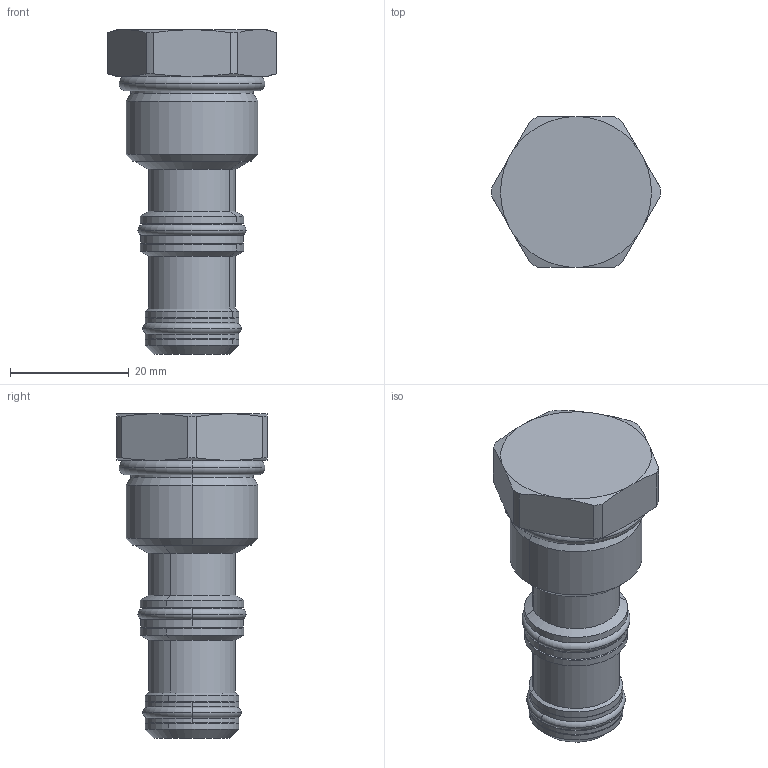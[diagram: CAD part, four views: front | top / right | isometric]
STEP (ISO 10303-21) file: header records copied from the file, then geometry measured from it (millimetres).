
FILE_DESCRIPTION((''),'2;1');
FILE_NAME('PC10-3X','2014-04-10T',('mg1'),(''),'PRO/ENGINEER BY PARAMETRIC TECHNOLOGY CORPORATION, 2013230','PRO/ENGINEER BY PARAMETRIC TECHNOLOGY CORPORATION, 2013230','');
FILE_SCHEMA(('CONFIG_CONTROL_DESIGN'));
Length unit declared in the file: millimetre
Products named in the file (1): PC10-3X
Bounding box: 28.45 x 25.34 x 54.62 mm (x, y, z)
Volume: 16078.1 mm3; surface area: 5189.4 mm2
Topology: 1 solids, 1 shells, 117 faces, 272 edges, 168 vertices
Faces by surface type: cylinder 44, cone 28, torus 22, plane 19, revolution 4
Entity records: 3603 total; most frequent: CARTESIAN_POINT 842, DIRECTION 616, ORIENTED_EDGE 544, EDGE_CURVE 272, AXIS2_PLACEMENT_3D 267, VERTEX_POINT 168, CIRCLE 154, EDGE_LOOP 128
